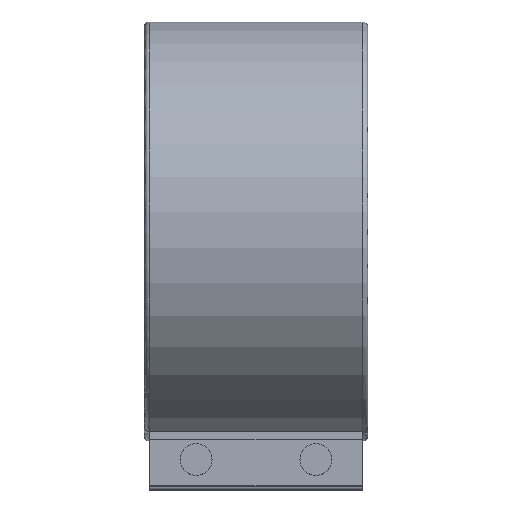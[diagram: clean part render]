
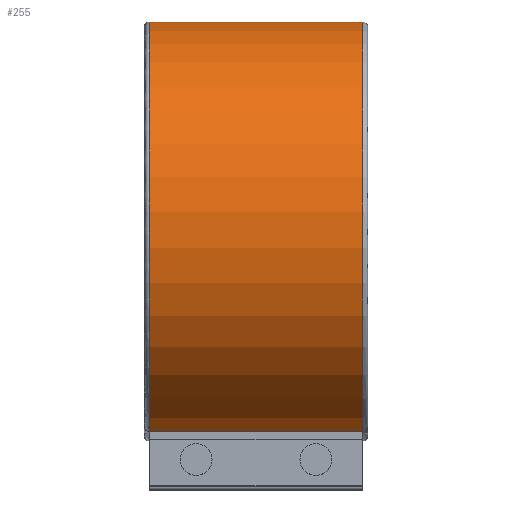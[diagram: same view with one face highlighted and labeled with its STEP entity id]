
A CAD part, top view. The second image highlights one B-rep face of the part: STEP entity #255.
In plain terms, the highlighted cylindrical face has radius 52.5 mm (diameter 105 mm), a partial arc.
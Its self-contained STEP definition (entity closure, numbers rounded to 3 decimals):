
#255 = ADVANCED_FACE( '', ( #592 ), #593, .T. );
#592 = FACE_OUTER_BOUND( '', #1005, .T. );
#593 = CYLINDRICAL_SURFACE( '', #1006, 52.5 );
#1005 = EDGE_LOOP( '', ( #1685, #1686, #1687, #1688 ) );
#1006 = AXIS2_PLACEMENT_3D( '', #1689, #1690, #1691 );
#1685 = ORIENTED_EDGE( '', *, *, #2470, .T. );
#1686 = ORIENTED_EDGE( '', *, *, #2471, .T. );
#1687 = ORIENTED_EDGE( '', *, *, #2386, .F. );
#1688 = ORIENTED_EDGE( '', *, *, #2472, .T. );
#1689 = CARTESIAN_POINT( '', ( 28., 0., 0. ) );
#1690 = DIRECTION( '', ( -1., 0., 0. ) );
#1691 = DIRECTION( '', ( 0., 0., -1. ) );
#2386 = EDGE_CURVE( '', #2877, #2768, #2879, .T. );
#2470 = EDGE_CURVE( '', #3008, #3009, #3010, .T. );
#2471 = EDGE_CURVE( '', #3009, #2768, #3011, .T. );
#2472 = EDGE_CURVE( '', #2877, #3008, #3012, .F. );
#2768 = VERTEX_POINT( '', #3408 );
#2877 = VERTEX_POINT( '', #3563 );
#2879 = CIRCLE( '', #3565, 52.5 );
#3008 = VERTEX_POINT( '', #3748 );
#3009 = VERTEX_POINT( '', #3749 );
#3010 = CIRCLE( '', #3750, 52.5 );
#3011 = LINE( '', #3751, #3752 );
#3012 = LINE( '', #3753, #3754 );
#3408 = CARTESIAN_POINT( '', ( 26.74, -50.082, 15.75 ) );
#3563 = CARTESIAN_POINT( '', ( 26.74, -50.082, -15.75 ) );
#3565 = AXIS2_PLACEMENT_3D( '', #4207, #4208, #4209 );
#3748 = CARTESIAN_POINT( '', ( -26.74, -50.082, -15.75 ) );
#3749 = CARTESIAN_POINT( '', ( -26.74, -50.082, 15.75 ) );
#3750 = AXIS2_PLACEMENT_3D( '', #4303, #4304, #4305 );
#3751 = CARTESIAN_POINT( '', ( 28., -50.082, 15.75 ) );
#3752 = VECTOR( '', #4306, 1000. );
#3753 = CARTESIAN_POINT( '', ( 28., -50.082, -15.75 ) );
#3754 = VECTOR( '', #4307, 1000. );
#4207 = CARTESIAN_POINT( '', ( 26.74, 0., 0. ) );
#4208 = DIRECTION( '', ( 1., 0., 0. ) );
#4209 = DIRECTION( '', ( 0., 0., -1. ) );
#4303 = CARTESIAN_POINT( '', ( -26.74, 0., 0. ) );
#4304 = DIRECTION( '', ( 1., 0., 0. ) );
#4305 = DIRECTION( '', ( 0., 0., -1. ) );
#4306 = DIRECTION( '', ( 1., 0., 0. ) );
#4307 = DIRECTION( '', ( 1., 0., 0. ) );
